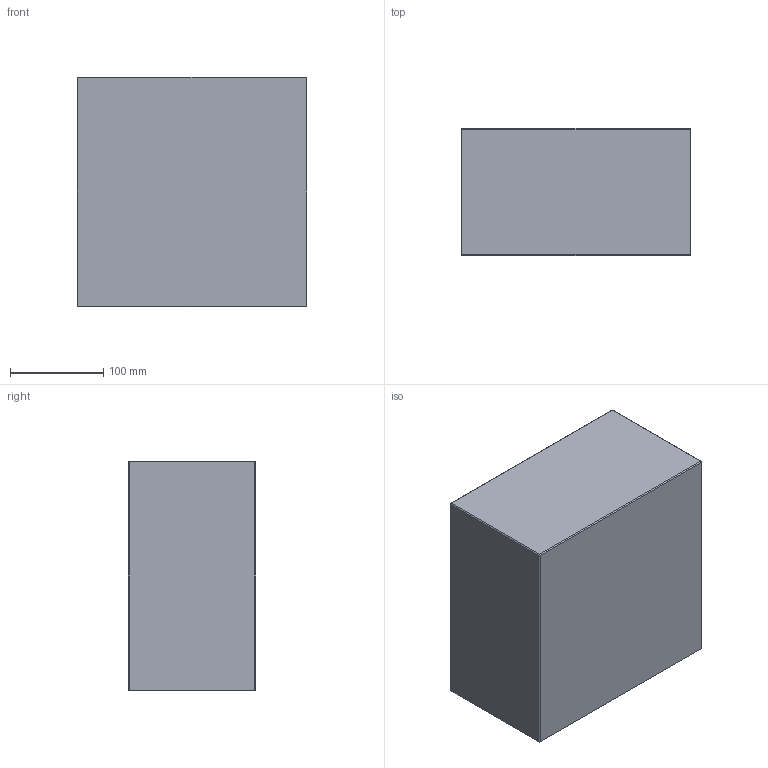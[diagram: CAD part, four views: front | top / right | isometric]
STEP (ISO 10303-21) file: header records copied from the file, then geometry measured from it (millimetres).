
FILE_DESCRIPTION (( 'STEP AP214' ), '1' );
FILE_NAME ('PC-P-246x246x136.STEP', '2020-04-01T08:29:22', ( 'August' ), ( '' ), 'SwSTEP 2.0', 'SolidWorks 2018', '' );
FILE_SCHEMA (( 'AUTOMOTIVE_DESIGN' ));
Length unit declared in the file: millimetre
Products named in the file (1): PC-P-246x246x136
Bounding box: 246 x 136 x 246 mm (x, y, z)
Volume: 8228925.3 mm3; surface area: 253381.5 mm2
Topology: 1 solids, 1 shells, 26 faces, 48 edges, 24 vertices
Faces by surface type: plane 26
Entity records: 634 total; most frequent: DIRECTION 102, CARTESIAN_POINT 99, ORIENTED_EDGE 96, EDGE_CURVE 48, LINE 48, VECTOR 48, AXIS2_PLACEMENT_3D 27, PLANE 26
